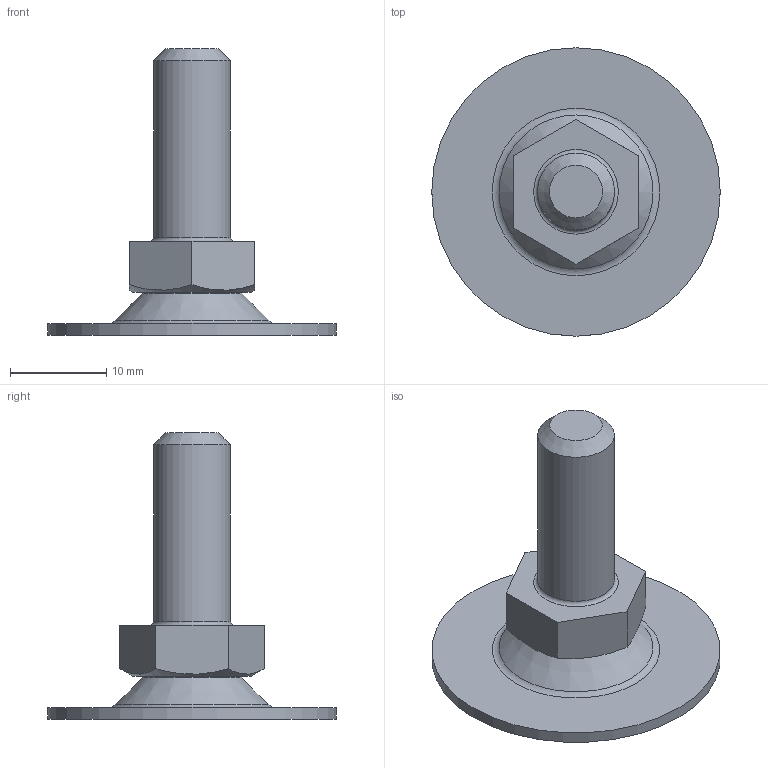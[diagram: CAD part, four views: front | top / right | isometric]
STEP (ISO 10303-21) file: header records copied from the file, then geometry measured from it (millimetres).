
FILE_DESCRIPTION(('STEP AP203'), '1');
FILE_NAME('A00050.1030816', '', ('UNSPECIFIED'), ('UNSPECIFIED'), 'C3D Converter', 'C3D Toolkit', '');
FILE_SCHEMA(('CONFIG_CONTROL_DESIGN'));
Length unit declared in the file: millimetre
Products named in the file (4): A00050.1030820; A00050.1030
Assembly tree (3 placements, depth 2):
  A00050.1030820
    A00050.1030
    (unnamed)
    (unnamed)
Bounding box: 30 x 30 x 29.78 mm (x, y, z)
Volume: 2707.2 mm3; surface area: 3048.9 mm2
Topology: 3 solids, 3 shells, 58 faces, 130 edges, 82 vertices
Faces by surface type: plane 28, torus 8, bspline 8, cone 7, cylinder 6, sphere 1
Full cylindrical faces by diameter (mm): 3.3 x1, 4 x1, 4.5 x1, 8 x2, 30 x1
Entity records: 2171 total; most frequent: CARTESIAN_POINT 784, DIRECTION 242, ORIENTED_EDGE 214, EDGE_CURVE 107, AXIS2_PLACEMENT_3D 95, EDGE_LOOP 86, VERTEX_POINT 81, ADVANCED_FACE 58
